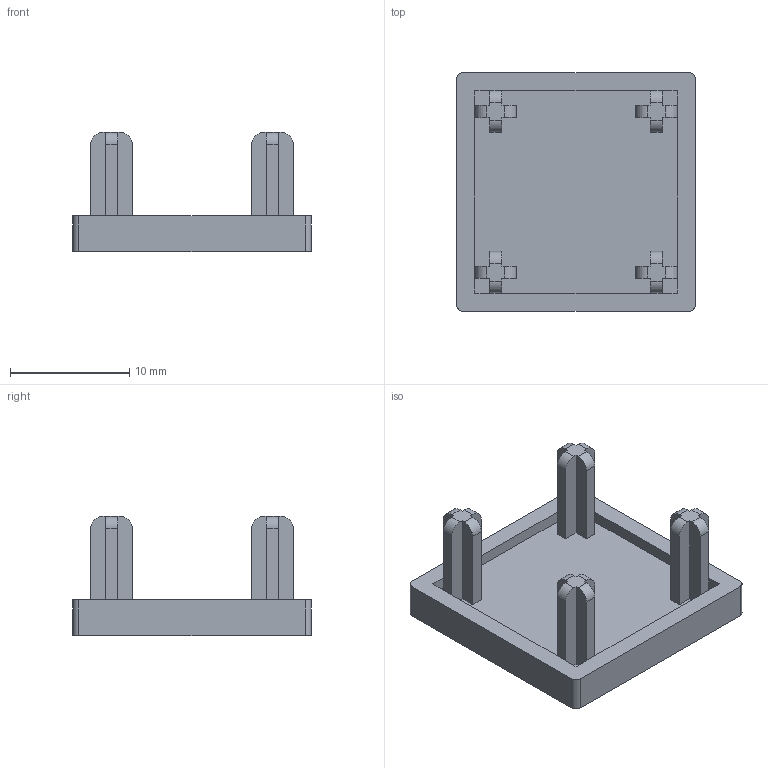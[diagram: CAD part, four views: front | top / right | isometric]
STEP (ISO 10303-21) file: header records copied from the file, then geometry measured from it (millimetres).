
FILE_DESCRIPTION(/* description */ (''),/* implementation_level */ '2;1');
FILE_NAME(/* name */ '\\AM-PUBLIC\Share\02.新型錄-2021\AM4系列\4系列-3D\02.4系列-AMC-端蓋\AMC-2020B.stp',/* time_stamp */ '2022-03-18T17:30:12+08:00',/* author */ ('user'),/* organization */ (''),/* preprocessor_version */ 'ST-DEVELOPER v18.1',/* originating_system */ 'Autodesk Inventor 2021',/* authorisation */ '');
FILE_SCHEMA (('AUTOMOTIVE_DESIGN { 1 0 10303 214 3 1 1 }'));
Length unit declared in the file: millimetre
Products named in the file (1): AMC-2020B
Bounding box: 20 x 20 x 10 mm (x, y, z)
Volume: 1098.9 mm3; surface area: 1523.3 mm2
Topology: 1 solids, 1 shells, 95 faces, 260 edges, 168 vertices
Faces by surface type: plane 75, cylinder 20
Entity records: 3111 total; most frequent: CARTESIAN_POINT 524, ORIENTED_EDGE 520, DIRECTION 492, EDGE_CURVE 260, LINE 220, VECTOR 220, VERTEX_POINT 168, AXIS2_PLACEMENT_3D 136
